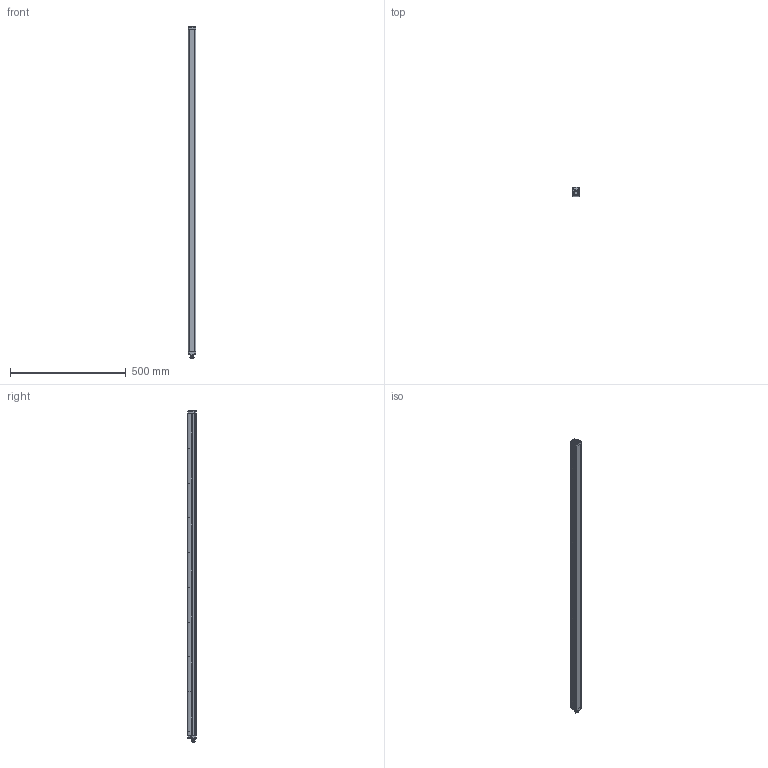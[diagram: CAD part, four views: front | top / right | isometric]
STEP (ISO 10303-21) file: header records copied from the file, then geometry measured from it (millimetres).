
FILE_DESCRIPTION(/* description */ (''),/* implementation_level */ '2;1');
FILE_NAME(/* name */ 'DSD-0177.stp',/* time_stamp */ '2020-07-16T15:32:19+02:00',/* author */ (''),/* organization */ (''),/* preprocessor_version */ 'ST-DEVELOPER v16.7',/* originating_system */ 'SIEMENS PLM Software NX 12.0',/* authorisation */ '');
FILE_SCHEMA (('AUTOMOTIVE_DESIGN { 1 0 10303 214 3 1 1 1 }'));
Products named in the file (1): AP025831_00_1-DSD-0177
Bounding box: 32.3 x 36.9 x 1432.84 mm (x, y, z)
Volume: 1435706.7 mm3; surface area: 333734.1 mm2
Topology: 11 solids, 813 shells, 1672 faces, 5304 edges, 4177 vertices
Faces by surface type: cylinder 614, bspline 586, plane 384, sphere 45, cone 35, torus 8
Full cylindrical faces by diameter (mm): 0.8 x16, 1.5 x6, 2 x6, 2.05 x4, 2.5 x12, 2.7 x10, 2.9 x6, 3 x12, 3.4 x6, 3.6 x12, 4.7 x2, 5 x10, 5.3 x2, 7.5 x1, 8 x1, 8.3 x1, 9.3 x1, 9.5 x1, 9.55 x1, 10.5 x1, 11 x2, 12 x12, 13.97 x1, 14.3 x1, 16 x2
Entity records: 87418 total; most frequent: CARTESIAN_POINT 37475, ORIENTED_EDGE 6959, DIRECTION 6130, EDGE_CURVE 5013, VERTEX_POINT 4171, AXIS2_PLACEMENT_3D 2401, EDGE_LOOP 1982, PRESENTATION_STYLE_ASSIGNMENT 1677
